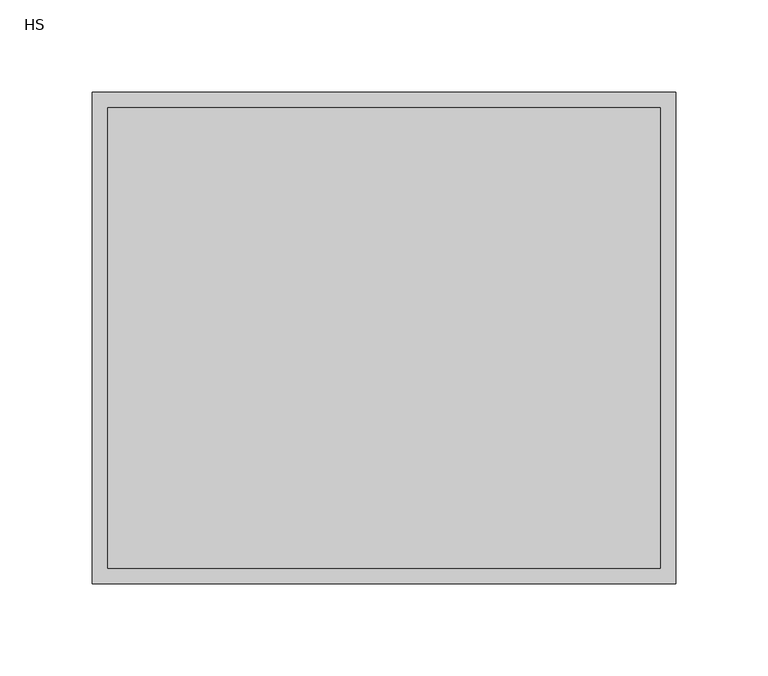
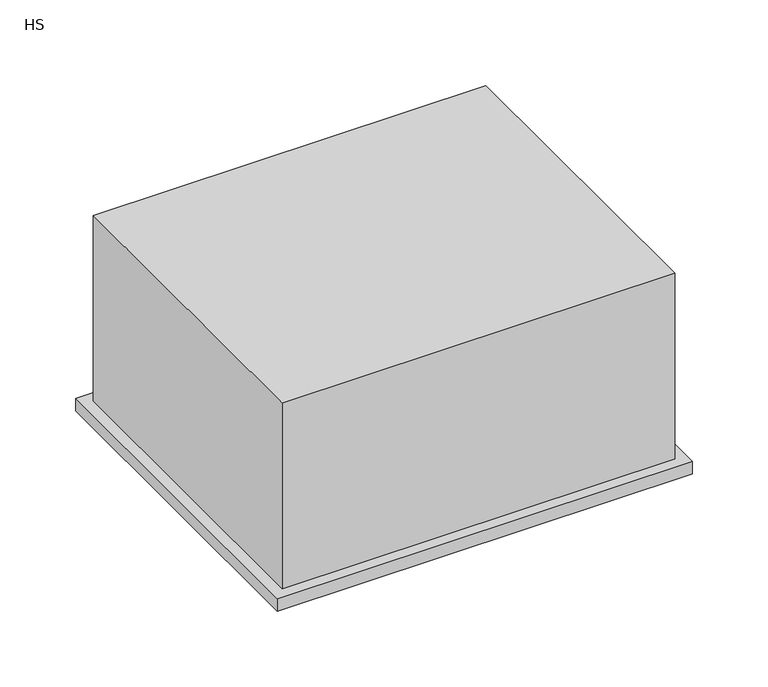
"""IFC4 building model written with IfcOpenShell, lengths in millimetres: air terminal geometry, 041_ユニバーサル形吸込口 : HS."""

from ifc_helpers import new_model, si_unit, frame, origin, origin_with_axes, place, context, project, spatial, polyline, outline, extrude, source, transform, mapped, element, save


def hs_5617ca5b(model_context):
    return source(origin(), model_context, "Body", "SweptSolid", [
        extrude(outline(polyline([(150.0, 125.0), (150.0, -125.0), (-150.0, -125.0), (-150.0, 125.0), (150.0, 125.0)])), origin_with_axes(), (0.0, 0.0, 1.0), 150.0),
        extrude(outline(polyline([(158.5, -133.5), (-158.5, -133.5), (-158.5, 133.5), (158.5, 133.5), (158.5, -133.5)]), holes=[polyline([(150.0, -125.0), (150.0, 125.0), (-150.0, 125.0), (-150.0, -125.0), (150.0, -125.0)])]), frame((0.0, 0.0, -10.0), z_axis=(0.0, 0.0, 1.0), x_axis=(1.0, 0.0, 0.0)), (0.0, 0.0, 1.0), 10.0),
    ])


if __name__ == "__main__":
    model = new_model("IFC4")
    model_context = context("Model", 3, world=origin())
    ifc_project = project(units=[si_unit("LENGTHUNIT", "METRE", prefix="MILLI")], contexts=[model_context])
    site = spatial("IfcSite", under=ifc_project)
    building = spatial("IfcBuilding", under=site)
    placement = place(None, origin())
    hs_shape = hs_5617ca5b(model_context)
    element("IfcAirTerminal", 1, ObjectType="041_ユニバーサル形吸込口 : HS", at=placement, inside=building, context=model_context, shape_type="MappedRepresentation", body=[
        mapped(hs_shape, transform((0.0, 0.0, 0.0), x_axis=(1.0, 0.0, 0.0), y_axis=(0.0, 1.0, 0.0), z_axis=(0.0, 0.0, 1.0))),
    ])
    save(model, "model.ifc")
